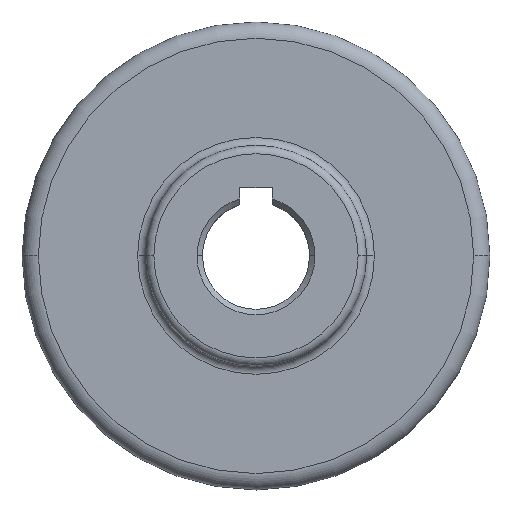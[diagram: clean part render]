
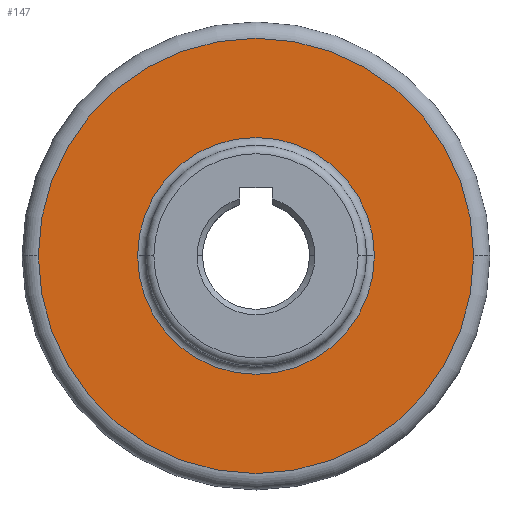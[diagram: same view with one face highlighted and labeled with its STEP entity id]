
A CAD part, top view. The second image highlights one B-rep face of the part: STEP entity #147.
In plain terms, the highlighted planar face has unit normal (0, 0, 1).
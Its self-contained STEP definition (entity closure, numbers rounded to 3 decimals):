
#31 = CARTESIAN_POINT ( 'NONE',  ( -11.06, 0., 8.6 ) ) ;
#99 = DIRECTION ( 'NONE',  ( -1., 0., 0. ) ) ;
#104 = FACE_BOUND ( 'NONE', #791, .T. ) ;
#147 = ADVANCED_FACE ( 'NONE', ( #568, #104 ), #1267, .F. ) ;
#160 = CIRCLE ( 'NONE', #280, 20.33 ) ;
#197 = CARTESIAN_POINT ( 'NONE',  ( 20.33, 0., 8.6 ) ) ;
#225 = EDGE_CURVE ( 'NONE', #1034, #333, #345, .T. ) ;
#276 = DIRECTION ( 'NONE',  ( -1., 0., 0. ) ) ;
#280 = AXIS2_PLACEMENT_3D ( 'NONE', #636, #1211, #99 ) ;
#333 = VERTEX_POINT ( 'NONE', #197 ) ;
#345 = CIRCLE ( 'NONE', #1082, 20.33 ) ;
#349 = ORIENTED_EDGE ( 'NONE', *, *, #1097, .T. ) ;
#568 = FACE_OUTER_BOUND ( 'NONE', #1126, .T. ) ;
#594 = DIRECTION ( 'NONE',  ( 0., 0., -1. ) ) ;
#599 = CIRCLE ( 'NONE', #1011, 11.06 ) ;
#609 = VERTEX_POINT ( 'NONE', #613 ) ;
#613 = CARTESIAN_POINT ( 'NONE',  ( 11.06, 0., 8.6 ) ) ;
#630 = EDGE_CURVE ( 'NONE', #609, #1059, #599, .T. ) ;
#636 = CARTESIAN_POINT ( 'NONE',  ( 0., 0., 8.6 ) ) ;
#678 = ORIENTED_EDGE ( 'NONE', *, *, #225, .T. ) ;
#712 = CARTESIAN_POINT ( 'NONE',  ( 0., 0., 8.6 ) ) ;
#729 = CIRCLE ( 'NONE', #800, 11.06 ) ;
#744 = CARTESIAN_POINT ( 'NONE',  ( 0., 0., 8.6 ) ) ;
#791 = EDGE_LOOP ( 'NONE', ( #349, #927 ) ) ;
#800 = AXIS2_PLACEMENT_3D ( 'NONE', #712, #594, #276 ) ;
#843 = ORIENTED_EDGE ( 'NONE', *, *, #1253, .T. ) ;
#857 = DIRECTION ( 'NONE',  ( -1., 0., 0. ) ) ;
#912 = CARTESIAN_POINT ( 'NONE',  ( -20.33, 0., 8.6 ) ) ;
#926 = AXIS2_PLACEMENT_3D ( 'NONE', #934, #1035, #1361 ) ;
#927 = ORIENTED_EDGE ( 'NONE', *, *, #630, .T. ) ;
#934 = CARTESIAN_POINT ( 'NONE',  ( 0., 21.85, 8.6 ) ) ;
#1011 = AXIS2_PLACEMENT_3D ( 'NONE', #744, #1187, #857 ) ;
#1034 = VERTEX_POINT ( 'NONE', #912 ) ;
#1035 = DIRECTION ( 'NONE',  ( 0., 0., -1. ) ) ;
#1059 = VERTEX_POINT ( 'NONE', #31 ) ;
#1068 = DIRECTION ( 'NONE',  ( 0., 0., 1. ) ) ;
#1082 = AXIS2_PLACEMENT_3D ( 'NONE', #1305, #1068, #1432 ) ;
#1097 = EDGE_CURVE ( 'NONE', #1059, #609, #729, .T. ) ;
#1126 = EDGE_LOOP ( 'NONE', ( #678, #843 ) ) ;
#1187 = DIRECTION ( 'NONE',  ( 0., 0., -1. ) ) ;
#1211 = DIRECTION ( 'NONE',  ( 0., 0., 1. ) ) ;
#1253 = EDGE_CURVE ( 'NONE', #333, #1034, #160, .T. ) ;
#1267 = PLANE ( 'NONE',  #926 ) ;
#1305 = CARTESIAN_POINT ( 'NONE',  ( 0., 0., 8.6 ) ) ;
#1361 = DIRECTION ( 'NONE',  ( -1., 0., 0. ) ) ;
#1432 = DIRECTION ( 'NONE',  ( -1., 0., 0. ) ) ;
